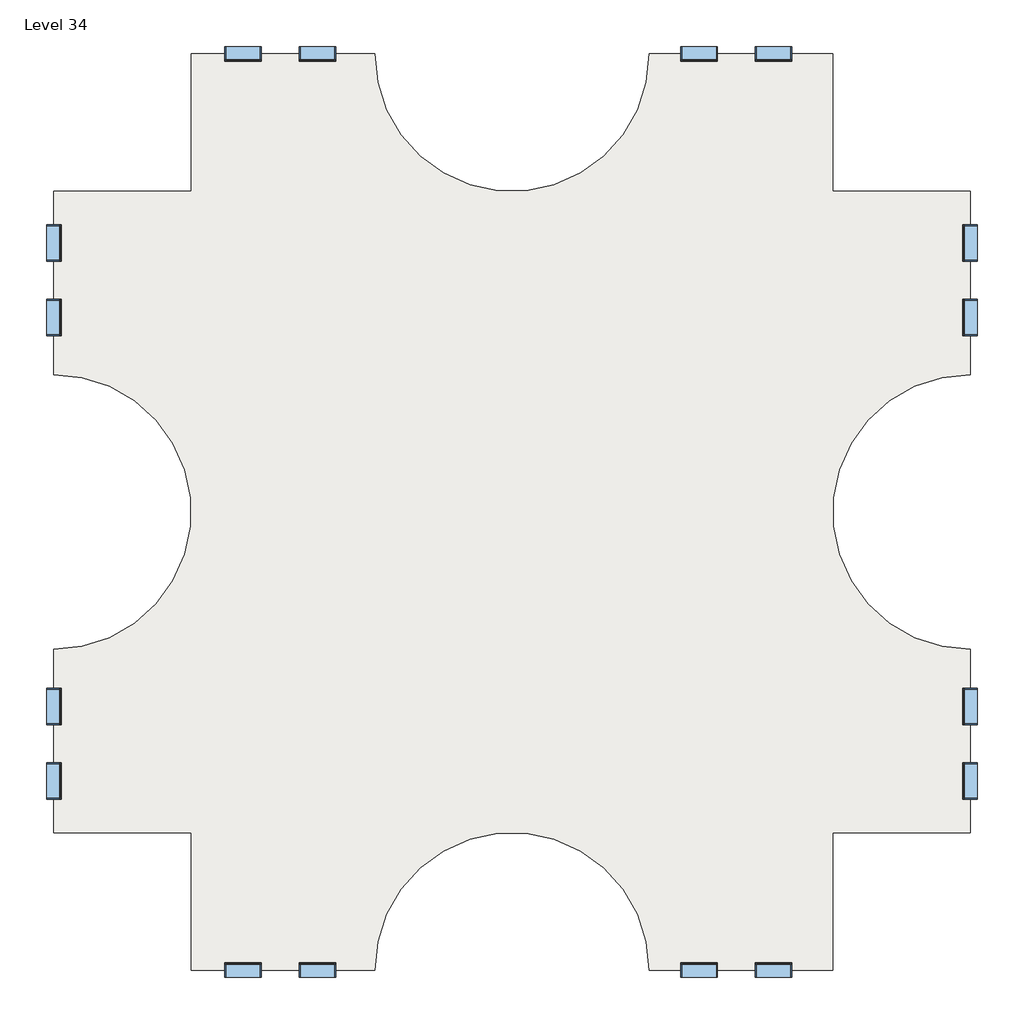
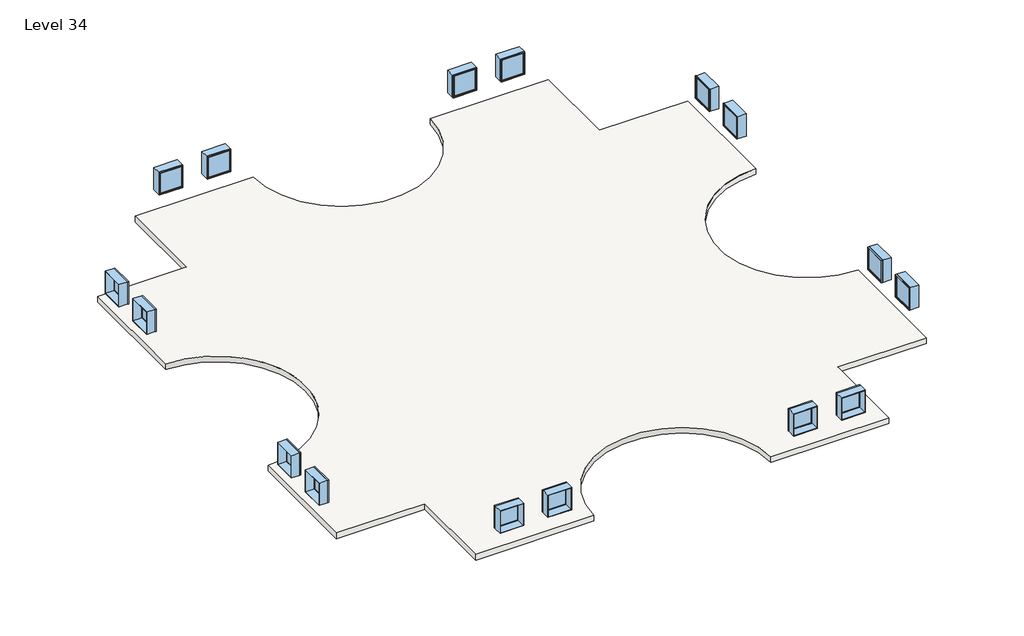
# One storey: 16 windows, 3 slabs.
"""IFC4 building model written with IfcOpenShell, lengths in millimetres."""

import ifcopenshell
import ifcopenshell.guid

model = None  # the IFC model being written
_history = None  # IfcOwnerHistory: only IFC2X3 demands one
_inside = {}  # id of a spatial element -> (the spatial element, [elements in it])
_under = {}  # id of a project, library or spatial element -> (it, [spatial elements below it])
_declared = {}  # id of a project -> (the project, [libraries it declares])
_typed = {}  # id of a type object -> (the type object, [elements of that type])
_made_of = {}  # id of a material, layer set ... -> (it, [elements and type objects made of it])


def new_model(schema):
    """Start an empty IFC model of exactly this schema.

    Asked for "IFC4X3", IfcOpenShell would pick the latest addendum, in which some entities
    have other attributes; the version numbers below select the first issue.
    IFC2X3 requires an IfcOwnerHistory on every rooted entity: one is made here for all.
    """
    global model, _history
    if schema == "IFC4X3":
        model = ifcopenshell.file(schema_version=(4, 3, 0, 0))
    else:
        model = ifcopenshell.file(schema=schema)
    _inside.clear()
    _under.clear()
    _declared.clear()
    _typed.clear()
    _made_of.clear()
    _history = None
    if model.schema == "IFC2X3":
        org = make("IfcOrganization", Name="unknown")
        user = make(
            "IfcPersonAndOrganization",
            ThePerson=make("IfcPerson", FamilyName="unknown"),
            TheOrganization=org,
        )
        app = make(
            "IfcApplication",
            ApplicationDeveloper=org,
            Version="unknown",
            ApplicationFullName="unknown",
            ApplicationIdentifier="unknown",
        )
        _history = make(
            "IfcOwnerHistory",
            OwningUser=user,
            OwningApplication=app,
            ChangeAction="ADDED",
            CreationDate=0,
        )
    return model


def make(cls, **values):
    """One entity of the class cls with the attributes given. An attribute that is None is left unset."""
    return model.create_entity(
        cls, **{name: value for name, value in values.items() if value is not None}
    )


def rooted(cls, **values):
    """An entity with a GlobalId (a new one), such as an element, a storey or a relation."""
    return make(cls, GlobalId=ifcopenshell.guid.new(), OwnerHistory=_history, **values)


def si_unit(unit_type, name, prefix=None):
    """IfcSIUnit, for example si_unit("LENGTHUNIT", "METRE", prefix="MILLI")."""
    return make("IfcSIUnit", UnitType=unit_type, Prefix=prefix, Name=name)


def assignment(units):
    """IfcUnitAssignment: the units of a project."""
    return None if units is None else make("IfcUnitAssignment", Units=units)


def point(xyz):
    """IfcCartesianPoint."""
    return None if xyz is None else make("IfcCartesianPoint", Coordinates=xyz)


def direction(xyz):
    """IfcDirection."""
    return None if xyz is None else make("IfcDirection", DirectionRatios=xyz)


def frame(location, z_axis=None, x_axis=None):
    """IfcAxis2Placement3D, a coordinate frame: its origin and axes. An axis left out is left unset."""
    return make(
        "IfcAxis2Placement3D",
        Location=point(location),
        Axis=direction(z_axis),
        RefDirection=direction(x_axis),
    )


def frame_2d(location, x_axis=None):
    """IfcAxis2Placement2D, a coordinate frame in the plane: its origin and x axis."""
    return make(
        "IfcAxis2Placement2D", Location=point(location), RefDirection=direction(x_axis)
    )


def origin():
    """The frame at (0, 0, 0) with its axes left unset."""
    return frame((0.0, 0.0, 0.0))


def place(relative_to, where):
    """IfcLocalPlacement: puts the frame where relative to a parent placement (None: the world)."""
    return make(
        "IfcLocalPlacement", PlacementRelTo=relative_to, RelativePlacement=where
    )


def context(
    kind, dimensions, precision=None, world=None, true_north=None, identifier=None
):
    """IfcGeometricRepresentationContext, for example the 3D "Model" context."""
    return make(
        "IfcGeometricRepresentationContext",
        ContextIdentifier=identifier,
        ContextType=kind,
        CoordinateSpaceDimension=dimensions,
        Precision=precision,
        WorldCoordinateSystem=world,
        TrueNorth=true_north,
    )


def project(units=None, contexts=None):
    """IfcProject with its units and contexts."""
    return rooted(
        "IfcProject",
        Name="project",
        RepresentationContexts=contexts,
        UnitsInContext=assignment(units),
    )


def spatial(cls, under=None, at=None, **own):
    """A site, building, storey or space (cls), placed at a placement, below another one or the project."""
    s = rooted(cls, ObjectPlacement=at, **own)
    if under is not None:
        _under.setdefault(under.id(), (under, []))[1].append(s)
    return s


def polyline(points):
    """IfcPolyline through the points."""
    return make("IfcPolyline", Points=[point(p) for p in points])


def circle_curve(where, radius):
    """IfcCircle in the frame where."""
    return make("IfcCircle", Position=where, Radius=radius)


def trimmed(basis, trim1, trim2, sense, master):
    """IfcTrimmedCurve: the piece of a basis curve between two trims."""
    return make(
        "IfcTrimmedCurve",
        BasisCurve=basis,
        Trim1=trim1,
        Trim2=trim2,
        SenseAgreement=sense,
        MasterRepresentation=master,
    )


def segment(curve, same_sense, transition):
    """IfcCompositeCurveSegment."""
    return make(
        "IfcCompositeCurveSegment",
        Transition=transition,
        SameSense=same_sense,
        ParentCurve=curve,
    )


def composite_curve(segments, self_intersect=None):
    """IfcCompositeCurve: segments joined end to end."""
    return make("IfcCompositeCurve", Segments=segments, SelfIntersect=self_intersect)


def outline(outer, holes=None, kind="AREA"):
    """IfcArbitraryClosedProfileDef: a profile drawn as a closed curve; with holes, ...WithVoids."""
    if holes is None:
        return make("IfcArbitraryClosedProfileDef", ProfileType=kind, OuterCurve=outer)
    return make(
        "IfcArbitraryProfileDefWithVoids",
        ProfileType=kind,
        OuterCurve=outer,
        InnerCurves=holes,
    )


def extrude(swept, where, along, depth):
    """IfcExtrudedAreaSolid: the profile swept, set in the frame where, extruded along a direction by depth."""
    return make(
        "IfcExtrudedAreaSolid",
        SweptArea=swept,
        Position=where,
        ExtrudedDirection=direction(along),
        Depth=depth,
    )


def shape(context_of_items, identifier, shape_type, items):
    """IfcShapeRepresentation: the items that make up one representation, for example the "Body"."""
    return make(
        "IfcShapeRepresentation",
        ContextOfItems=context_of_items,
        RepresentationIdentifier=identifier,
        RepresentationType=shape_type,
        Items=items,
    )


def source(mapping_origin, context_of_items, identifier, shape_type, items):
    """IfcRepresentationMap: a shape defined once, which mapped items show again and again."""
    return make(
        "IfcRepresentationMap",
        MappingOrigin=mapping_origin,
        MappedRepresentation=shape(context_of_items, identifier, shape_type, items),
    )


def transform(
    local_origin,
    x_axis=None,
    y_axis=None,
    z_axis=None,
    scale=None,
    scale2=None,
    scale3=None,
    uniform=True,
):
    """IfcCartesianTransformationOperator3D, or its non-uniform kind. x_axis, y_axis, z_axis: its Axis1, 2, 3."""
    if uniform:
        return make(
            "IfcCartesianTransformationOperator3D",
            Axis1=direction(x_axis),
            Axis2=direction(y_axis),
            LocalOrigin=point(local_origin),
            Scale=scale,
            Axis3=direction(z_axis),
        )
    return make(
        "IfcCartesianTransformationOperator3DnonUniform",
        Axis1=direction(x_axis),
        Axis2=direction(y_axis),
        LocalOrigin=point(local_origin),
        Scale=scale,
        Axis3=direction(z_axis),
        Scale2=scale2,
        Scale3=scale3,
    )


def mapped(mapping_source, mapping_target):
    """IfcMappedItem: shows the shape of a source again, moved by a transform."""
    return make(
        "IfcMappedItem", MappingSource=mapping_source, MappingTarget=mapping_target
    )


def made_of(thing, what):
    """Note that an element or type object is made of a material, layer set ...; save() writes the relation."""
    if what is not None:
        _made_of.setdefault(what.id(), (what, []))[1].append(thing)
    return thing


def element(
    cls,
    number,
    at=None,
    inside=None,
    cuts=None,
    type_object=None,
    material=None,
    context=None,
    identifier="Body",
    shape_type=None,
    held_by="IfcProductDefinitionShape",
    body=None,
    shapes=None,
    **own,
):
    """One element of the class cls, such as IfcWall. Its Tag is "e" and its number.

    at: its placement. inside: the storey or other place that contains it. cuts: it is an
    opening in that element (IfcRelVoidsElement). A single representation is given by context,
    identifier, shape_type and body (its items); several are given by shapes. held_by: the class
    of the entity that holds the representations. save() writes the other relations.
    """
    e = rooted(cls, Tag="e%d" % number, ObjectPlacement=at, **own)
    if body is not None:
        shapes = [shape(context, identifier, shape_type, body)]
    if shapes is not None:
        e.Representation = make(held_by, Representations=shapes)
    if inside is not None:
        _inside.setdefault(inside.id(), (inside, []))[1].append(e)
    if cuts is not None:
        rooted(
            "IfcRelVoidsElement", RelatingBuildingElement=cuts, RelatedOpeningElement=e
        )
    if type_object is not None:
        _typed.setdefault(type_object.id(), (type_object, []))[1].append(e)
    return made_of(e, material)


def aggregate(whole, parts):
    """IfcRelAggregates: a whole, such as a stair, and the parts it consists of."""
    return rooted("IfcRelAggregates", RelatingObject=whole, RelatedObjects=parts)


def save(model, path):
    """Write the relations noted so far, then the file.

    IfcRelAggregates (storeys below a building ...), IfcRelContainedInSpatialStructure (elements
    in a storey), IfcRelDefinesByType, IfcRelAssociatesMaterial and IfcRelDeclares: one each for
    every whole, place, type object, material and project.
    """
    for whole, parts in _under.values():
        aggregate(whole, parts)
    for where, things in _inside.values():
        rooted(
            "IfcRelContainedInSpatialStructure",
            RelatedElements=things,
            RelatingStructure=where,
        )
    for kind, things in _typed.values():
        rooted("IfcRelDefinesByType", RelatedObjects=things, RelatingType=kind)
    for what, things in _made_of.values():
        rooted("IfcRelAssociatesMaterial", RelatedObjects=things, RelatingMaterial=what)
    for by, libraries in _declared.values():
        rooted("IfcRelDeclares", RelatingContext=by, RelatedDefinitions=libraries)
    model.write(path)


def window_d0035ecf(model_context):
    return source(origin(), model_context, "Body", "SweptSolid", [
        extrude(outline(polyline([(508.0, 200.025), (-584.2, 200.025), (-584.2, 212.725), (508.0, 212.725), (508.0, 200.025)])), frame((0.0, 0.0, 977.9), z_axis=(0.0, 0.0, 1.0), x_axis=(1.0, 0.0, 0.0)), (0.0, 0.0, 1.0), 1092.2),
        extrude(outline(polyline([(2114.55, -628.65), (933.45, -628.65), (933.45, 552.45), (2114.55, 552.45), (2114.55, -628.65)]), holes=[polyline([(2070.1, -584.2), (2070.1, 508.0), (977.9, 508.0), (977.9, -584.2), (2070.1, -584.2)])]), frame((0.0, 184.15, 0.0), z_axis=(0.0, 1.0, 0.0), x_axis=(0.0, 0.0, 1.0)), (0.0, 0.0, 1.0), 44.45),
        extrude(outline(polyline([(2133.6, -647.7), (914.4, -647.7), (914.4, 571.5), (2133.6, 571.5), (2133.6, -647.7)]), holes=[polyline([(2101.85, -615.95), (2101.85, 539.75), (946.15, 539.75), (946.15, -615.95), (2101.85, -615.95)])]), frame((0.0, -247.65, 0.0), z_axis=(0.0, 1.0, 0.0), x_axis=(0.0, 0.0, 1.0)), (0.0, 0.0, 1.0), 431.8),
        extrude(outline(polyline([(2133.6, 571.5), (2133.6, -647.7), (914.4, -647.7), (914.4, 571.5), (2133.6, 571.5)]), holes=[polyline([(2114.55, 552.45), (933.45, 552.45), (933.45, -628.65), (2114.55, -628.65), (2114.55, 552.45)])]), frame((0.0, 184.15, 0.0), z_axis=(0.0, 1.0, 0.0), x_axis=(0.0, 0.0, 1.0)), (0.0, 0.0, 1.0), 63.5),
    ])


def window_d434eb62(model_context):
    return source(origin(), model_context, "Body", "SweptSolid", [
        extrude(outline(polyline([(508.0, -200.025), (508.0, -212.725), (-584.2, -212.725), (-584.2, -200.025), (508.0, -200.025)])), frame((0.0, 0.0, 977.9), z_axis=(0.0, 0.0, 1.0), x_axis=(1.0, 0.0, 0.0)), (0.0, 0.0, 1.0), 1092.2),
        extrude(outline(polyline([(2114.55, -628.65), (933.45, -628.65), (933.45, 552.45), (2114.55, 552.45), (2114.55, -628.65)]), holes=[polyline([(2070.1, -584.2), (2070.1, 508.0), (977.9, 508.0), (977.9, -584.2), (2070.1, -584.2)])]), frame((0.0, -228.6, 0.0), z_axis=(0.0, 1.0, 0.0), x_axis=(0.0, 0.0, 1.0)), (0.0, 0.0, 1.0), 44.45),
        extrude(outline(polyline([(2133.6, -647.7), (914.4, -647.7), (914.4, 571.5), (2133.6, 571.5), (2133.6, -647.7)]), holes=[polyline([(2101.85, -615.95), (2101.85, 539.75), (946.15, 539.75), (946.15, -615.95), (2101.85, -615.95)])]), frame((0.0, -184.15, 0.0), z_axis=(0.0, 1.0, 0.0), x_axis=(0.0, 0.0, 1.0)), (0.0, 0.0, 1.0), 431.8),
        extrude(outline(polyline([(2133.6, 571.5), (2133.6, -647.7), (914.4, -647.7), (914.4, 571.5), (2133.6, 571.5)]), holes=[polyline([(2114.55, 552.45), (933.45, 552.45), (933.45, -628.65), (2114.55, -628.65), (2114.55, 552.45)])]), frame((0.0, -247.65, 0.0), z_axis=(0.0, 1.0, 0.0), x_axis=(0.0, 0.0, 1.0)), (0.0, 0.0, 1.0), 63.5),
    ])


model = new_model("IFC4")

# Units and contexts
model_context = context("Model", 3, world=origin())
ifc_project = project(units=[si_unit("LENGTHUNIT", "METRE", prefix="MILLI")], contexts=[model_context])

# Site, building, storey
site = spatial("IfcSite", under=ifc_project)
building = spatial("IfcBuilding", under=site)
storey = spatial("IfcBuildingStorey", under=building, Name="Level 34", Elevation=100584.0)

# Slabs
placement = place(None, origin())
element("IfcSlab", 1, ObjectType="Generic - 12\"", at=placement, inside=storey, context=model_context, shape_type="SweptSolid", body=[
    extrude(outline(composite_curve([segment(polyline([(-7150.3629456, 4479.6634547), (-7150.3629456, 9051.6634547), (-1054.3629456, 9051.6634547)]), True, "CONTINUOUS"), segment(trimmed(circle_curve(frame_2d((3517.6370544, 9051.6634547)), 4572.0), [point((-1054.3629456, 9051.6634547))], [point((8089.6370544, 9051.6634547))], True, "CARTESIAN"), True, "CONTINUOUS"), segment(polyline([(8089.6370544, 9051.6634547), (14185.6370544, 9051.6634547), (14185.6370544, 4479.6634547), (18757.6370544, 4479.6634547), (18757.6370544, -1616.3365453)]), True, "CONTINUOUS"), segment(trimmed(circle_curve(frame_2d((18757.6370544, -6188.3365453)), 4572.0), [point((18757.6370544, -1616.3365453))], [point((18757.6370544, -10760.3365453))], True, "CARTESIAN"), True, "CONTINUOUS"), segment(polyline([(18757.6370544, -10760.3365453), (18757.6370544, -16856.3365453), (14185.6370544, -16856.3365453), (14185.6370544, -21428.3365453), (8089.6370544, -21428.3365453)]), True, "CONTINUOUS"), segment(trimmed(circle_curve(frame_2d((3517.6370544, -21428.3365453)), 4572.0), [point((8089.6370544, -21428.3365453))], [point((-1054.3629456, -21428.3365453))], True, "CARTESIAN"), True, "CONTINUOUS"), segment(polyline([(-1054.3629456, -21428.3365453), (-7150.3629456, -21428.3365453), (-7150.3629456, -16856.3365453), (-11722.3629456, -16856.3365453), (-11722.3629456, -10760.3365453)]), True, "CONTINUOUS"), segment(trimmed(circle_curve(frame_2d((-11722.3629456, -6188.3365453)), 4572.0), [point((-11722.3629456, -10760.3365453))], [point((-11722.3629456, -1616.3365453))], True, "CARTESIAN"), True, "CONTINUOUS"), segment(polyline([(-11722.3629456, -1616.3365453), (-11722.3629456, 4479.6634547), (-7150.3629456, 4479.6634547)]), True, "CONTINUOUS")], self_intersect=False)), frame((0.0, 0.0, 100279.2), z_axis=(0.0, 0.0, 1.0), x_axis=(1.0, 0.0, 0.0)), (0.0, 0.0, 1.0), 304.8),
])
element("IfcSlab", 2, ObjectType="Generic - 12\"", at=placement, inside=storey, context=model_context, shape_type="SweptSolid", body=[
    extrude(outline(composite_curve([segment(polyline([(-7150.3629456, 4479.6634547), (-7150.3629456, 9051.6634547), (-1054.3629456, 9051.6634547)]), True, "CONTINUOUS"), segment(trimmed(circle_curve(frame_2d((3517.6370544, 9051.6634547)), 4572.0), [point((-1054.3629456, 9051.6634547))], [point((8089.6370544, 9051.6634547))], True, "CARTESIAN"), True, "CONTINUOUS"), segment(polyline([(8089.6370544, 9051.6634547), (14185.6370544, 9051.6634547), (14185.6370544, 4479.6634547), (18757.6370544, 4479.6634547), (18757.6370544, -1616.3365453)]), True, "CONTINUOUS"), segment(trimmed(circle_curve(frame_2d((18757.6370544, -6188.3365453)), 4572.0), [point((18757.6370544, -1616.3365453))], [point((18757.6370544, -10760.3365453))], True, "CARTESIAN"), True, "CONTINUOUS"), segment(polyline([(18757.6370544, -10760.3365453), (18757.6370544, -16856.3365453), (14185.6370544, -16856.3365453), (14185.6370544, -21428.3365453), (8089.6370544, -21428.3365453)]), True, "CONTINUOUS"), segment(trimmed(circle_curve(frame_2d((3517.6370544, -21428.3365453)), 4572.0), [point((8089.6370544, -21428.3365453))], [point((-1054.3629456, -21428.3365453))], True, "CARTESIAN"), True, "CONTINUOUS"), segment(polyline([(-1054.3629456, -21428.3365453), (-7150.3629456, -21428.3365453), (-7150.3629456, -16856.3365453), (-11722.3629456, -16856.3365453), (-11722.3629456, -10760.3365453)]), True, "CONTINUOUS"), segment(trimmed(circle_curve(frame_2d((-11722.3629456, -6188.3365453)), 4572.0), [point((-11722.3629456, -10760.3365453))], [point((-11722.3629456, -1616.3365453))], True, "CARTESIAN"), True, "CONTINUOUS"), segment(polyline([(-11722.3629456, -1616.3365453), (-11722.3629456, 4479.6634547), (-7150.3629456, 4479.6634547)]), True, "CONTINUOUS")], self_intersect=False)), frame((0.0, 0.0, 100279.2), z_axis=(0.0, 0.0, 1.0), x_axis=(1.0, 0.0, 0.0)), (0.0, 0.0, 1.0), 304.8),
])
element("IfcSlab", 3, ObjectType="Generic - 12\"", at=placement, inside=storey, context=model_context, shape_type="SweptSolid", body=[
    extrude(outline(composite_curve([segment(polyline([(-7150.3629456, 4479.6634547), (-7150.3629456, 9051.6634547), (-1054.3629456, 9051.6634547)]), True, "CONTINUOUS"), segment(trimmed(circle_curve(frame_2d((3517.6370544, 9051.6634547)), 4572.0), [point((-1054.3629456, 9051.6634547))], [point((8089.6370544, 9051.6634547))], True, "CARTESIAN"), True, "CONTINUOUS"), segment(polyline([(8089.6370544, 9051.6634547), (14185.6370544, 9051.6634547), (14185.6370544, 4479.6634547), (18757.6370544, 4479.6634547), (18757.6370544, -1616.3365453)]), True, "CONTINUOUS"), segment(trimmed(circle_curve(frame_2d((18757.6370544, -6188.3365453)), 4572.0), [point((18757.6370544, -1616.3365453))], [point((18757.6370544, -10760.3365453))], True, "CARTESIAN"), True, "CONTINUOUS"), segment(polyline([(18757.6370544, -10760.3365453), (18757.6370544, -16856.3365453), (14185.6370544, -16856.3365453), (14185.6370544, -21428.3365453), (8089.6370544, -21428.3365453)]), True, "CONTINUOUS"), segment(trimmed(circle_curve(frame_2d((3517.6370544, -21428.3365453)), 4572.0), [point((8089.6370544, -21428.3365453))], [point((-1054.3629456, -21428.3365453))], True, "CARTESIAN"), True, "CONTINUOUS"), segment(polyline([(-1054.3629456, -21428.3365453), (-7150.3629456, -21428.3365453), (-7150.3629456, -16856.3365453), (-11722.3629456, -16856.3365453), (-11722.3629456, -10760.3365453)]), True, "CONTINUOUS"), segment(trimmed(circle_curve(frame_2d((-11722.3629456, -6188.3365453)), 4572.0), [point((-11722.3629456, -10760.3365453))], [point((-11722.3629456, -1616.3365453))], True, "CARTESIAN"), True, "CONTINUOUS"), segment(polyline([(-11722.3629456, -1616.3365453), (-11722.3629456, 4479.6634547), (-7150.3629456, 4479.6634547)]), True, "CONTINUOUS")], self_intersect=False)), frame((0.0, 0.0, 100279.2), z_axis=(0.0, 0.0, 1.0), x_axis=(1.0, 0.0, 0.0)), (0.0, 0.0, 1.0), 304.8),
])

# Windows
window_shape = window_d0035ecf(model_context)
element("IfcWindow", 4, ObjectType="Fixed : 48\" x 48\"", at=placement, inside=storey, context=model_context, shape_type="MappedRepresentation", body=[
    mapped(window_shape, transform((-11719.1879456, 247.3884547, 100584.0), x_axis=(0.0, -1.0, 0.0), y_axis=(1.0, 0.0, 0.0), z_axis=(0.0, 0.0, 1.0))),
])
element("IfcWindow", 5, ObjectType="Fixed : 48\" x 48\"", at=placement, inside=storey, context=model_context, shape_type="MappedRepresentation", body=[
    mapped(window_shape, transform((-5469.1993281, 9048.4884547, 100584.0), x_axis=(-1.0, 0.0, 0.0), y_axis=(0.0, -1.0, 0.0), z_axis=(0.0, 0.0, 1.0))),
])
element("IfcWindow", 6, ObjectType="Fixed : 48\" x 48\"", at=placement, inside=storey, context=model_context, shape_type="MappedRepresentation", body=[
    mapped(window_shape, transform((-11719.1879456, -15175.1729277, 100584.0), x_axis=(0.0, -1.0, 0.0), y_axis=(1.0, 0.0, 0.0), z_axis=(0.0, 0.0, 1.0))),
])
element("IfcWindow", 7, ObjectType="Fixed : 48\" x 48\"", at=placement, inside=storey, context=model_context, shape_type="MappedRepresentation", body=[
    mapped(window_shape, transform((-2918.0879456, -21425.1615453, 100584.0), x_axis=(1.0, 0.0, 0.0), y_axis=(0.0, 1.0, 0.0), z_axis=(0.0, 0.0, 1.0))),
])
element("IfcWindow", 8, ObjectType="Fixed : 48\" x 48\"", at=placement, inside=storey, context=model_context, shape_type="MappedRepresentation", body=[
    mapped(window_shape, transform((18754.4620544, 2798.4998372, 100584.0), x_axis=(0.0, 1.0, 0.0), y_axis=(-1.0, 0.0, 0.0), z_axis=(0.0, 0.0, 1.0))),
])
element("IfcWindow", 9, ObjectType="Fixed : 48\" x 48\"", at=placement, inside=storey, context=model_context, shape_type="MappedRepresentation", body=[
    mapped(window_shape, transform((9705.7120544, 9048.4884547, 100584.0), x_axis=(-1.0, 0.0, 0.0), y_axis=(0.0, -1.0, 0.0), z_axis=(0.0, 0.0, 1.0))),
])
element("IfcWindow", 10, ObjectType="Fixed : 48\" x 48\"", at=placement, inside=storey, context=model_context, shape_type="MappedRepresentation", body=[
    mapped(window_shape, transform((18754.4620544, -12624.0615453, 100584.0), x_axis=(0.0, 1.0, 0.0), y_axis=(-1.0, 0.0, 0.0), z_axis=(0.0, 0.0, 1.0))),
])
element("IfcWindow", 11, ObjectType="Fixed : 48\" x 48\"", at=placement, inside=storey, context=model_context, shape_type="MappedRepresentation", body=[
    mapped(window_shape, transform((12256.8234368, -21425.1615453, 100584.0), x_axis=(1.0, 0.0, 0.0), y_axis=(0.0, 1.0, 0.0), z_axis=(0.0, 0.0, 1.0))),
])
window_2_shape = window_d434eb62(model_context)
element("IfcWindow", 12, ObjectType="Fixed : 48\" x 48\"", at=placement, inside=storey, context=model_context, shape_type="MappedRepresentation", body=[
    mapped(window_2_shape, transform((-11719.1879456, 2798.4998372, 100584.0), x_axis=(0.0, 1.0, 0.0), y_axis=(-1.0, 0.0, 0.0), z_axis=(0.0, 0.0, 1.0))),
])
element("IfcWindow", 13, ObjectType="Fixed : 48\" x 48\"", at=placement, inside=storey, context=model_context, shape_type="MappedRepresentation", body=[
    mapped(window_2_shape, transform((-2918.0879456, 9048.4884547, 100584.0), x_axis=(1.0, 0.0, 0.0), y_axis=(0.0, 1.0, 0.0), z_axis=(0.0, 0.0, 1.0))),
])
element("IfcWindow", 14, ObjectType="Fixed : 48\" x 48\"", at=placement, inside=storey, context=model_context, shape_type="MappedRepresentation", body=[
    mapped(window_2_shape, transform((-11719.1879456, -12624.0615453, 100584.0), x_axis=(0.0, 1.0, 0.0), y_axis=(-1.0, 0.0, 0.0), z_axis=(0.0, 0.0, 1.0))),
])
element("IfcWindow", 15, ObjectType="Fixed : 48\" x 48\"", at=placement, inside=storey, context=model_context, shape_type="MappedRepresentation", body=[
    mapped(window_2_shape, transform((-5469.1993281, -21425.1615453, 100584.0), x_axis=(-1.0, 0.0, 0.0), y_axis=(0.0, -1.0, 0.0), z_axis=(0.0, 0.0, 1.0))),
])
element("IfcWindow", 16, ObjectType="Fixed : 48\" x 48\"", at=placement, inside=storey, context=model_context, shape_type="MappedRepresentation", body=[
    mapped(window_2_shape, transform((18754.4620544, 247.3884547, 100584.0), x_axis=(0.0, -1.0, 0.0), y_axis=(1.0, 0.0, 0.0), z_axis=(0.0, 0.0, 1.0))),
])
element("IfcWindow", 17, ObjectType="Fixed : 48\" x 48\"", at=placement, inside=storey, context=model_context, shape_type="MappedRepresentation", body=[
    mapped(window_2_shape, transform((12256.8234368, 9048.4884547, 100584.0), x_axis=(1.0, 0.0, 0.0), y_axis=(0.0, 1.0, 0.0), z_axis=(0.0, 0.0, 1.0))),
])
element("IfcWindow", 18, ObjectType="Fixed : 48\" x 48\"", at=placement, inside=storey, context=model_context, shape_type="MappedRepresentation", body=[
    mapped(window_2_shape, transform((18754.4620544, -15175.1729277, 100584.0), x_axis=(0.0, -1.0, 0.0), y_axis=(1.0, 0.0, 0.0), z_axis=(0.0, 0.0, 1.0))),
])
element("IfcWindow", 19, ObjectType="Fixed : 48\" x 48\"", at=placement, inside=storey, context=model_context, shape_type="MappedRepresentation", body=[
    mapped(window_2_shape, transform((9705.7120544, -21425.1615453, 100584.0), x_axis=(-1.0, 0.0, 0.0), y_axis=(0.0, -1.0, 0.0), z_axis=(0.0, 0.0, 1.0))),
])

save(model, "model.ifc")
